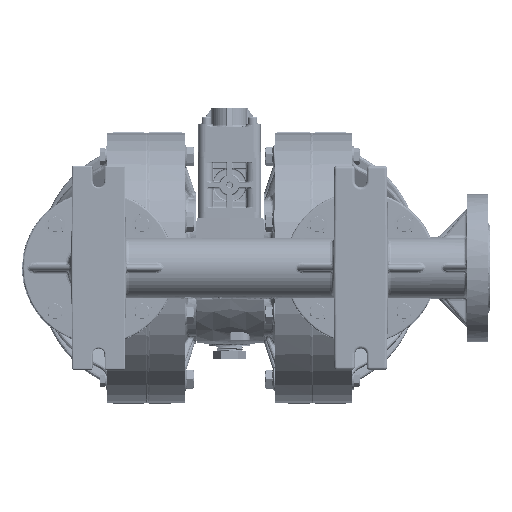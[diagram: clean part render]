
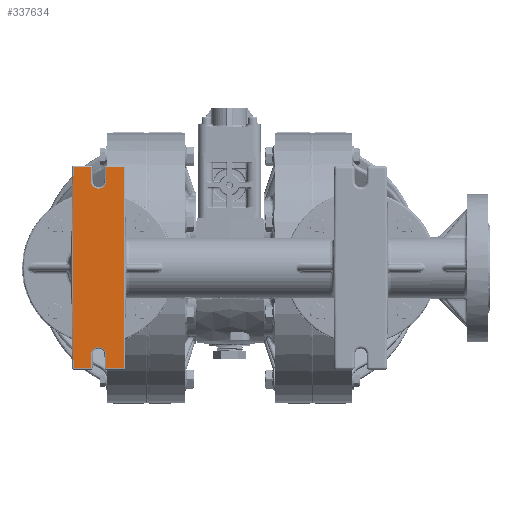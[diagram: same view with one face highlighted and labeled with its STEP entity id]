
A CAD part, front view. The second image highlights one B-rep face of the part: STEP entity #337634.
In plain terms, the highlighted planar face has unit normal (0, -1, 0).
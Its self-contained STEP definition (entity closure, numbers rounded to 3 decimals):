
#1967 = EDGE_CURVE ( 'NONE', #228885, #568494, #419309, .T. ) ;
#4633 = CARTESIAN_POINT ( 'NONE',  ( -5.194, -12.884, -3.43 ) ) ;
#5240 = CARTESIAN_POINT ( 'NONE',  ( -4.169, -12.884, 0. ) ) ;
#6135 = LINE ( 'NONE', #44331, #438626 ) ;
#9456 = VERTEX_POINT ( 'NONE', #279605 ) ;
#18269 = DIRECTION ( 'NONE',  ( 0., 1., 0. ) ) ;
#23815 = EDGE_CURVE ( 'NONE', #390134, #219196, #368870, .T. ) ;
#29925 = FACE_OUTER_BOUND ( 'NONE', #478260, .T. ) ;
#32878 = CARTESIAN_POINT ( 'NONE',  ( -6.219, -12.884, 0. ) ) ;
#33002 = DIRECTION ( 'NONE',  ( 0.009, 0., 1. ) ) ;
#44331 = CARTESIAN_POINT ( 'NONE',  ( -6.184, -12.884, -3.98 ) ) ;
#45224 = CARTESIAN_POINT ( 'NONE',  ( -6.184, -12.884, -3.98 ) ) ;
#46481 = VECTOR ( 'NONE', #63974, 39.37 ) ;
#49707 = LINE ( 'NONE', #228898, #232916 ) ;
#50869 = AXIS2_PLACEMENT_3D ( 'NONE', #335484, #68224, #520305 ) ;
#56741 = CARTESIAN_POINT ( 'NONE',  ( -4.895, -12.884, 3.98 ) ) ;
#57509 = DIRECTION ( 'NONE',  ( -0.009, 0., -1. ) ) ;
#63974 = DIRECTION ( 'NONE',  ( 1., 0., 0. ) ) ;
#64420 = EDGE_CURVE ( 'NONE', #281438, #101369, #176637, .T. ) ;
#67111 = DIRECTION ( 'NONE',  ( -1., 0., 0. ) ) ;
#68224 = DIRECTION ( 'NONE',  ( 0., 1., 0. ) ) ;
#88375 = ORIENTED_EDGE ( 'NONE', *, *, #23815, .T. ) ;
#91258 = EDGE_CURVE ( 'NONE', #101369, #9456, #6135, .T. ) ;
#92611 = EDGE_CURVE ( 'NONE', #9456, #300813, #49707, .T. ) ;
#101369 = VERTEX_POINT ( 'NONE', #45224 ) ;
#116969 = ORIENTED_EDGE ( 'NONE', *, *, #386192, .T. ) ;
#117885 = EDGE_CURVE ( 'NONE', #215718, #146554, #228477, .T. ) ;
#122434 = ORIENTED_EDGE ( 'NONE', *, *, #569016, .T. ) ;
#124228 = VERTEX_POINT ( 'NONE', #305618 ) ;
#126348 = ORIENTED_EDGE ( 'NONE', *, *, #238138, .T. ) ;
#130262 = EDGE_CURVE ( 'NONE', #300813, #147388, #230860, .T. ) ;
#140641 = CARTESIAN_POINT ( 'NONE',  ( -4.169, -12.884, 0. ) ) ;
#142886 = CIRCLE ( 'NONE', #442460, 0.294 ) ;
#146554 = VERTEX_POINT ( 'NONE', #150140 ) ;
#147388 = VERTEX_POINT ( 'NONE', #495298 ) ;
#150140 = CARTESIAN_POINT ( 'NONE',  ( -4.204, -12.884, 3.98 ) ) ;
#153748 = ORIENTED_EDGE ( 'NONE', *, *, #197508, .T. ) ;
#159651 = CARTESIAN_POINT ( 'NONE',  ( -6.219, -12.884, 0. ) ) ;
#172409 = CARTESIAN_POINT ( 'NONE',  ( -4.895, -12.884, -3.98 ) ) ;
#176637 = LINE ( 'NONE', #32878, #418076 ) ;
#184395 = DIRECTION ( 'NONE',  ( -0.009, 0., 1. ) ) ;
#188414 = CARTESIAN_POINT ( 'NONE',  ( -5.194, -12.884, 3.43 ) ) ;
#190491 = DIRECTION ( 'NONE',  ( 0., 1., 0. ) ) ;
#191198 = ORIENTED_EDGE ( 'NONE', *, *, #92611, .T. ) ;
#197508 = EDGE_CURVE ( 'NONE', #480457, #506621, #420595, .T. ) ;
#199287 = VECTOR ( 'NONE', #184395, 39.37 ) ;
#205122 = CARTESIAN_POINT ( 'NONE',  ( -4.204, -12.884, 3.98 ) ) ;
#215718 = VERTEX_POINT ( 'NONE', #140641 ) ;
#219196 = VERTEX_POINT ( 'NONE', #332576 ) ;
#220317 = ORIENTED_EDGE ( 'NONE', *, *, #363934, .T. ) ;
#220935 = CIRCLE ( 'NONE', #445920, 0.294 ) ;
#223737 = DIRECTION ( 'NONE',  ( 0., 1., 0. ) ) ;
#224778 = DIRECTION ( 'NONE',  ( -0.009, 0., -1. ) ) ;
#227858 = DIRECTION ( 'NONE',  ( 0., 1., 0. ) ) ;
#228477 = LINE ( 'NONE', #5240, #199287 ) ;
#228885 = VERTEX_POINT ( 'NONE', #172409 ) ;
#228898 = CARTESIAN_POINT ( 'NONE',  ( -5.493, -12.884, -3.98 ) ) ;
#230860 = CIRCLE ( 'NONE', #352789, 0.295 ) ;
#232916 = VECTOR ( 'NONE', #407954, 39.37 ) ;
#237462 = LINE ( 'NONE', #454777, #554846 ) ;
#238138 = EDGE_CURVE ( 'NONE', #219196, #492005, #142886, .T. ) ;
#240342 = DIRECTION ( 'NONE',  ( 0.009, 0., -1. ) ) ;
#245227 = CARTESIAN_POINT ( 'NONE',  ( -5.488, -12.884, 3.425 ) ) ;
#253359 = VECTOR ( 'NONE', #57509, 39.37 ) ;
#255134 = LINE ( 'NONE', #387260, #286091 ) ;
#260330 = DIRECTION ( 'NONE',  ( -1., 0., 0.001 ) ) ;
#268206 = ORIENTED_EDGE ( 'NONE', *, *, #1967, .T. ) ;
#276086 = VECTOR ( 'NONE', #224778, 39.37 ) ;
#279605 = CARTESIAN_POINT ( 'NONE',  ( -5.493, -12.884, -3.98 ) ) ;
#281438 = VERTEX_POINT ( 'NONE', #159651 ) ;
#282737 = DIRECTION ( 'NONE',  ( -0.009, 0., 1. ) ) ;
#285409 = EDGE_CURVE ( 'NONE', #568494, #215718, #355888, .T. ) ;
#286091 = VECTOR ( 'NONE', #296311, 39.37 ) ;
#289417 = CARTESIAN_POINT ( 'NONE',  ( -5.493, -12.884, 3.98 ) ) ;
#296311 = DIRECTION ( 'NONE',  ( -1., 0., 0. ) ) ;
#299012 = ORIENTED_EDGE ( 'NONE', *, *, #64420, .T. ) ;
#300813 = VERTEX_POINT ( 'NONE', #509826 ) ;
#305618 = CARTESIAN_POINT ( 'NONE',  ( -4.9, -12.884, -3.43 ) ) ;
#321092 = VECTOR ( 'NONE', #33002, 39.37 ) ;
#332576 = CARTESIAN_POINT ( 'NONE',  ( -4.9, -12.884, 3.43 ) ) ;
#335484 = CARTESIAN_POINT ( 'NONE',  ( 0., -12.884, 0. ) ) ;
#337634 = ADVANCED_FACE ( 'NONE', ( #29925 ), #429327, .F. ) ;
#338293 = DIRECTION ( 'NONE',  ( -1., 0., 0.001 ) ) ;
#341588 = ORIENTED_EDGE ( 'NONE', *, *, #91258, .T. ) ;
#348288 = CARTESIAN_POINT ( 'NONE',  ( -6.184, -12.884, 3.98 ) ) ;
#352789 = AXIS2_PLACEMENT_3D ( 'NONE', #473252, #18269, #338293 ) ;
#355888 = LINE ( 'NONE', #487943, #321092 ) ;
#358585 = DIRECTION ( 'NONE',  ( 1., 0., 0. ) ) ;
#363934 = EDGE_CURVE ( 'NONE', #146554, #390134, #469358, .T. ) ;
#365951 = VECTOR ( 'NONE', #282737, 39.37 ) ;
#368870 = LINE ( 'NONE', #547895, #253359 ) ;
#370571 = ORIENTED_EDGE ( 'NONE', *, *, #285409, .T. ) ;
#386192 = EDGE_CURVE ( 'NONE', #526981, #281438, #398051, .T. ) ;
#387260 = CARTESIAN_POINT ( 'NONE',  ( -5.493, -12.884, 3.98 ) ) ;
#390134 = VERTEX_POINT ( 'NONE', #56741 ) ;
#398051 = LINE ( 'NONE', #348288, #276086 ) ;
#407954 = DIRECTION ( 'NONE',  ( 0.009, 0., 1. ) ) ;
#408057 = EDGE_CURVE ( 'NONE', #506621, #526981, #255134, .T. ) ;
#418076 = VECTOR ( 'NONE', #531899, 39.37 ) ;
#419309 = LINE ( 'NONE', #560114, #46481 ) ;
#420595 = LINE ( 'NONE', #467514, #365951 ) ;
#429327 = PLANE ( 'NONE',  #50869 ) ;
#430494 = ORIENTED_EDGE ( 'NONE', *, *, #117885, .T. ) ;
#436209 = ORIENTED_EDGE ( 'NONE', *, *, #526028, .T. ) ;
#438626 = VECTOR ( 'NONE', #358585, 39.37 ) ;
#442460 = AXIS2_PLACEMENT_3D ( 'NONE', #501674, #190491, #536992 ) ;
#445920 = AXIS2_PLACEMENT_3D ( 'NONE', #188414, #223737, #549437 ) ;
#451021 = ORIENTED_EDGE ( 'NONE', *, *, #408057, .T. ) ;
#454777 = CARTESIAN_POINT ( 'NONE',  ( -4.9, -12.884, -3.43 ) ) ;
#467514 = CARTESIAN_POINT ( 'NONE',  ( -5.488, -12.884, 3.43 ) ) ;
#469358 = LINE ( 'NONE', #205122, #570326 ) ;
#469386 = CARTESIAN_POINT ( 'NONE',  ( -6.184, -12.884, 3.98 ) ) ;
#473252 = CARTESIAN_POINT ( 'NONE',  ( -5.194, -12.884, -3.43 ) ) ;
#475064 = ORIENTED_EDGE ( 'NONE', *, *, #481137, .T. ) ;
#478260 = EDGE_LOOP ( 'NONE', ( #116969, #299012, #341588, #191198, #479627, #122434, #475064, #268206, #370571, #430494, #220317, #88375, #126348, #436209, #153748, #451021 ) ) ;
#479627 = ORIENTED_EDGE ( 'NONE', *, *, #130262, .T. ) ;
#480457 = VERTEX_POINT ( 'NONE', #500201 ) ;
#481137 = EDGE_CURVE ( 'NONE', #124228, #228885, #237462, .T. ) ;
#487779 = CIRCLE ( 'NONE', #562855, 0.295 ) ;
#487943 = CARTESIAN_POINT ( 'NONE',  ( -4.204, -12.884, -3.98 ) ) ;
#492005 = VERTEX_POINT ( 'NONE', #245227 ) ;
#495298 = CARTESIAN_POINT ( 'NONE',  ( -4.9, -12.884, -3.425 ) ) ;
#500201 = CARTESIAN_POINT ( 'NONE',  ( -5.488, -12.884, 3.43 ) ) ;
#501674 = CARTESIAN_POINT ( 'NONE',  ( -5.194, -12.884, 3.43 ) ) ;
#506621 = VERTEX_POINT ( 'NONE', #289417 ) ;
#509826 = CARTESIAN_POINT ( 'NONE',  ( -5.488, -12.884, -3.43 ) ) ;
#520305 = DIRECTION ( 'NONE',  ( 1., 0., 0. ) ) ;
#526028 = EDGE_CURVE ( 'NONE', #492005, #480457, #220935, .T. ) ;
#526981 = VERTEX_POINT ( 'NONE', #469386 ) ;
#531899 = DIRECTION ( 'NONE',  ( 0.009, 0., -1. ) ) ;
#536992 = DIRECTION ( 'NONE',  ( 1., 0., -0.001 ) ) ;
#547652 = CARTESIAN_POINT ( 'NONE',  ( -4.204, -12.884, -3.98 ) ) ;
#547895 = CARTESIAN_POINT ( 'NONE',  ( -4.895, -12.884, 3.98 ) ) ;
#549437 = DIRECTION ( 'NONE',  ( 1., 0., -0.001 ) ) ;
#554846 = VECTOR ( 'NONE', #240342, 39.37 ) ;
#560114 = CARTESIAN_POINT ( 'NONE',  ( -4.895, -12.884, -3.98 ) ) ;
#562855 = AXIS2_PLACEMENT_3D ( 'NONE', #4633, #227858, #260330 ) ;
#568494 = VERTEX_POINT ( 'NONE', #547652 ) ;
#569016 = EDGE_CURVE ( 'NONE', #147388, #124228, #487779, .T. ) ;
#570326 = VECTOR ( 'NONE', #67111, 39.37 ) ;
